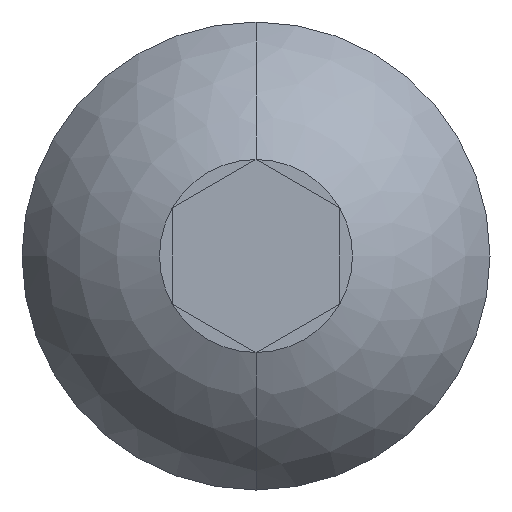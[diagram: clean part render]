
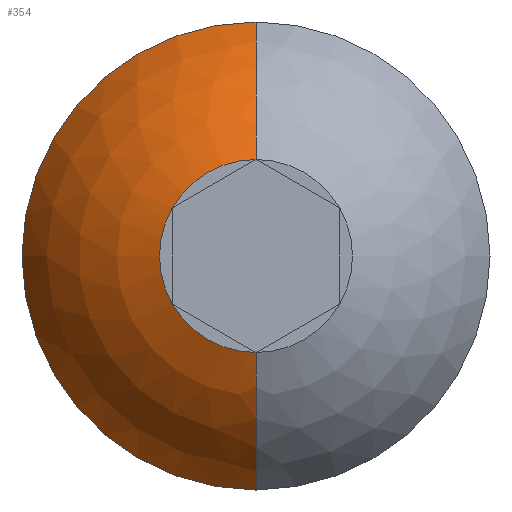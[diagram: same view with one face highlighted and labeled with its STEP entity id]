
A CAD part, front view. The second image highlights one B-rep face of the part: STEP entity #354.
In plain terms, the highlighted spherical face has radius 7.723 mm.
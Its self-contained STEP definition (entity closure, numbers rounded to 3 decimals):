
#57=CARTESIAN_POINT('',(0.,-0.5,0.));
#58=DIRECTION('',(0.,-1.,0.));
#59=DIRECTION('',(-1.,0.,0.));
#60=AXIS2_PLACEMENT_3D('',#57,#58,#59);
#62=CARTESIAN_POINT('',(0.,-0.5,0.));
#63=DIRECTION('',(0.,-1.,0.));
#64=DIRECTION('',(0.,0.,1.));
#65=AXIS2_PLACEMENT_3D('',#62,#63,#64);
#67=CARTESIAN_POINT('',(0.,-4.4,0.));
#68=DIRECTION('',(0.,-1.,0.));
#69=DIRECTION('',(0.,0.,1.));
#70=AXIS2_PLACEMENT_3D('',#67,#68,#69);
#76=CARTESIAN_POINT('',(0.,-4.4,0.));
#77=DIRECTION('',(0.,-1.,0.));
#78=DIRECTION('',(-0.866,0.,0.5));
#79=AXIS2_PLACEMENT_3D('',#76,#77,#78);
#85=CARTESIAN_POINT('',(0.,-4.4,0.));
#86=DIRECTION('',(0.,-1.,0.));
#87=DIRECTION('',(-0.866,0.,-0.5));
#88=AXIS2_PLACEMENT_3D('',#85,#86,#87);
#169=CARTESIAN_POINT('',(0.,2.764,0.));
#170=DIRECTION('',(-1.,0.,0.));
#171=DIRECTION('',(0.,-0.928,0.374));
#172=AXIS2_PLACEMENT_3D('',#169,#170,#171);
#184=CARTESIAN_POINT('',(0.,2.764,0.));
#185=DIRECTION('',(1.,0.,0.));
#186=DIRECTION('',(0.,-0.928,-0.374));
#187=AXIS2_PLACEMENT_3D('',#184,#185,#186);
#221=CARTESIAN_POINT('',(0.,-4.4,2.887));
#222=VERTEX_POINT('',#221);
#223=CARTESIAN_POINT('',(-2.5,-4.4,1.443));
#224=VERTEX_POINT('',#223);
#225=CARTESIAN_POINT('',(-2.5,-4.4,-1.443));
#226=VERTEX_POINT('',#225);
#227=CARTESIAN_POINT('',(0.,-4.4,-2.887));
#228=VERTEX_POINT('',#227);
#237=CARTESIAN_POINT('',(0.,-0.5,7.));
#238=CARTESIAN_POINT('',(-7.,-0.5,0.));
#239=VERTEX_POINT('',#237);
#240=VERTEX_POINT('',#238);
#243=CARTESIAN_POINT('',(0.,-0.5,-7.));
#244=VERTEX_POINT('',#243);
#334=CARTESIAN_POINT('',(0.,2.764,0.));
#335=DIRECTION('',(0.,-1.,0.));
#336=DIRECTION('',(0.,0.,1.));
#337=AXIS2_PLACEMENT_3D('',#334,#335,#336);
#338=SPHERICAL_SURFACE('',#337,7.723);
#340=ORIENTED_EDGE('',*,*,#339,.T.);
#342=ORIENTED_EDGE('',*,*,#341,.T.);
#344=ORIENTED_EDGE('',*,*,#343,.T.);
#346=ORIENTED_EDGE('',*,*,#345,.T.);
#348=ORIENTED_EDGE('',*,*,#347,.F.);
#349=ORIENTED_EDGE('',*,*,#322,.F.);
#351=ORIENTED_EDGE('',*,*,#350,.F.);
#352=EDGE_LOOP('',(#340,#342,#344,#346,#348,#349,#351));
#353=FACE_OUTER_BOUND('',#352,.F.);
#354=ADVANCED_FACE('',(#353),#338,.T.);
#61=CIRCLE('',#60,7.);
#66=CIRCLE('',#65,7.);
#71=CIRCLE('',#70,2.887);
#80=CIRCLE('',#79,2.887);
#89=CIRCLE('',#88,2.887);
#173=CIRCLE('',#172,7.723);
#188=CIRCLE('',#187,7.723);
#322=EDGE_CURVE('',#239,#240,#66,.T.);
#339=EDGE_CURVE('',#222,#224,#71,.T.);
#341=EDGE_CURVE('',#224,#226,#80,.T.);
#343=EDGE_CURVE('',#226,#228,#89,.T.);
#345=EDGE_CURVE('',#228,#244,#188,.T.);
#347=EDGE_CURVE('',#240,#244,#61,.T.);
#350=EDGE_CURVE('',#222,#239,#173,.T.);
